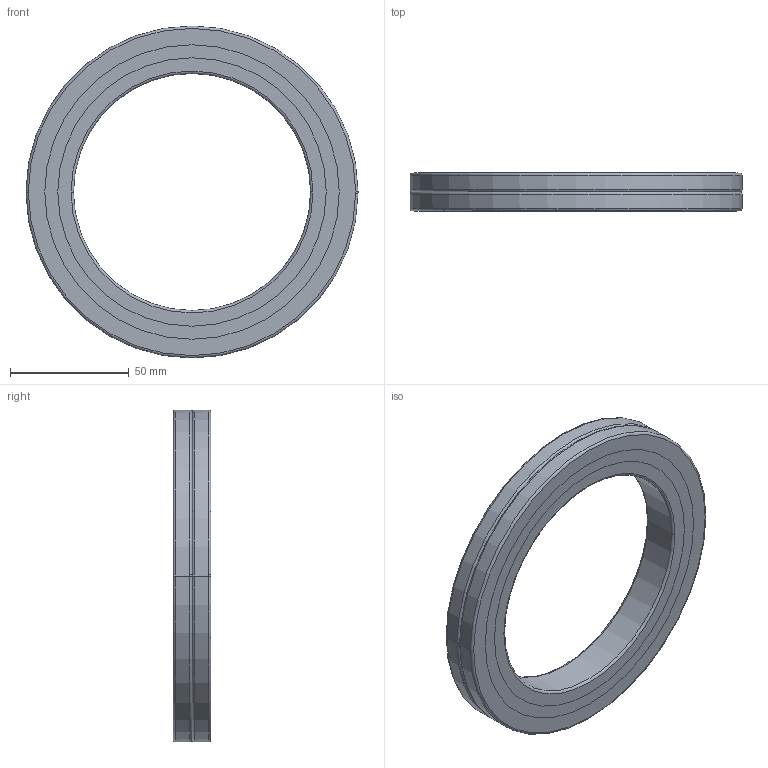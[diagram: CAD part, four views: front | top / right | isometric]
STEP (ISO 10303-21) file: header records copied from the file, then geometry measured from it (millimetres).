
FILE_DESCRIPTION(('no description'),'unknown implementation level');
FILE_NAME('CRBA10016_12.stp',' ',('HIWIN GmbH'),('CADClick - KiM GmbH - www.kimweb.de'),'unknown preprocess','ACIS','unknown authorization');
FILE_SCHEMA(('automotive_design'));
Length unit declared in the file: millimetre
Products named in the file (5): CRBA10016_1; CRBA10016_2; CRBA10016_3; CRBA10016_4; CRBA10016
Bounding box: 140 x 16 x 140 mm (x, y, z)
Volume: 93462.5 mm3; surface area: 50947.2 mm2
Topology: 5 solids, 5 shells, 54 faces, 120 edges, 76 vertices
Faces by surface type: torus 24, cylinder 20, plane 10
Entity records: 3096 total; most frequent: DIRECTION 338, STYLED_ITEM 255, PRESENTATION_STYLE_ASSIGNMENT 255, CARTESIAN_POINT 255, COLOUR_RGB 255, ORIENTED_EDGE 240, AXIS2_PLACEMENT_3D 159, EDGE_CURVE 120
